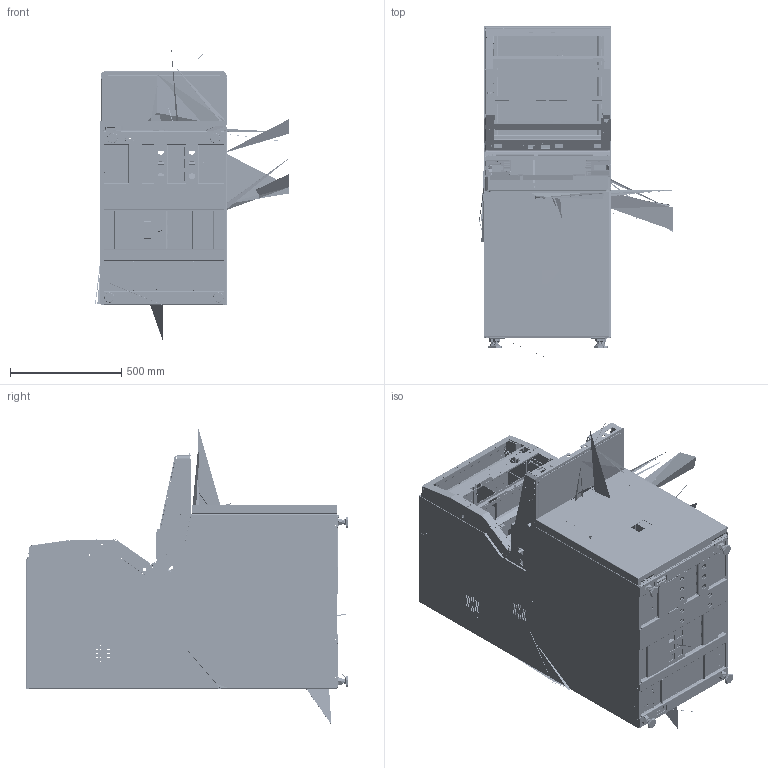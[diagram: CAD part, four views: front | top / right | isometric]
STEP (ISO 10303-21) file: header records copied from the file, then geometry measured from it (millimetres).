
FILE_DESCRIPTION (( 'STEP AP203' ), '1' );
FILE_NAME ('1P019504.STEP', '2016-11-28T15:09:15', ( '' ), ( '' ), 'SwSTEP 2.0', 'SolidWorks 2016', '' );
FILE_SCHEMA (( 'CONFIG_CONTROL_DESIGN' ));
Length unit declared in the file: millimetre
Products named in the file (343): 4P068244; 0_COMPONENTS-27; 0_COMPONENTS-52; 4P068235; 0_COMPONENTS-18; 0_COMPONENTS-104; 0_COMPONENTS-94; 0_COMPONENTS-24; 2P027551_01; 2P025800; 0_COMPONENTS-43; 0_COMPONENTS-81; 1P019506; 7P050559-004; 7P127934; 0_COMPONENTS-42; 7P051199; 2P027605; 0_COMPONENTS-38; 1P019514_01; 7p128016; 0_COMPONENTS-77; 2P025903_001; 7P142543_001; 0_COMPONENTS-63; 0_COMPONENTS-37; 1P019527_001; 4P069997_001; 0_COMPONENTS-12; 0_COMPONENTS-59; 7P051200; 4P074461_001; 1P018280; 0_COMPONENTS-129; 0_COMPONENTS-19; 0_COMPONENTS-83; 0_COMPONENTS-113; 7P051198; 0_COMPONENTS-14; 4P068449_001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
Assembly tree (389 placements, depth 6):
  1P019504
    1P019506
      1P019508
        1P019509
          0_COMPONENTS
          0_COMPONENTS-1
          0_COMPONENTS-2
          0_COMPONENTS-3
          0_COMPONENTS-4
          0_COMPONENTS-5
          0_COMPONENTS-6
          0_COMPONENTS-7
          0_COMPONENTS-8
          0_COMPONENTS-9
          0_COMPONENTS-10
          0_COMPONENTS-11
          0_COMPONENTS-12
          0_COMPONENTS-13
          0_COMPONENTS-14
          0_COMPONENTS-15
          0_COMPONENTS-16
          0_COMPONENTS-17
          0_COMPONENTS-18
          0_COMPONENTS-19
          0_COMPONENTS-20
          0_COMPONENTS-21
          0_COMPONENTS-22
          0_COMPONENTS-23
          0_COMPONENTS-24
          0_COMPONENTS-25
          0_COMPONENTS-26
          0_COMPONENTS-27
          0_COMPONENTS-28
          0_COMPONENTS-29
          0_COMPONENTS-30
          0_COMPONENTS-31
          0_COMPONENTS-32
          0_COMPONENTS-33
          0_COMPONENTS-34
          0_COMPONENTS-35
          0_COMPONENTS-36
          0_COMPONENTS-37
          0_COMPONENTS-38
          0_COMPONENTS-39
          0_COMPONENTS-40
          0_COMPONENTS-41
          0_COMPONENTS-42
          0_COMPONENTS-43
          0_COMPONENTS-44
          0_COMPONENTS-45
          0_COMPONENTS-46
          0_COMPONENTS-47
          0_COMPONENTS-48
          0_COMPONENTS-49
          0_COMPONENTS-50
          0_COMPONENTS-51
          0_COMPONENTS-52
          0_COMPONENTS-53
          0_COMPONENTS-54
          0_COMPONENTS-55
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Bounding box: 869.7 x 1488.33 x 1333.32 mm (x, y, z)
Topology: 297 solids, 952 shells, 19067 faces, 52187 edges, 34464 vertices
Faces by surface type: plane 10310, cylinder 8443, cone 236, bspline 50, torus 20, sphere 8
Full cylindrical faces by diameter (mm): 0.4 x5, 2.5 x1, 2.6 x1, 3 x8, 3.2 x1, 3.6 x6, 4 x2, 4.2 x2, 4.4 x7, 5 x1, 6 x6, 6.8 x1, 8 x11, 8.1 x4, 12 x1, 17.5 x2
Entity records: 632090 total; most frequent: CARTESIAN_POINT 107831, DIRECTION 103443, ORIENTED_EDGE 98488, EDGE_CURVE 50090, AXIS2_PLACEMENT_3D 34963, VECTOR 33517, LINE 33517, VERTEX_POINT 32941
